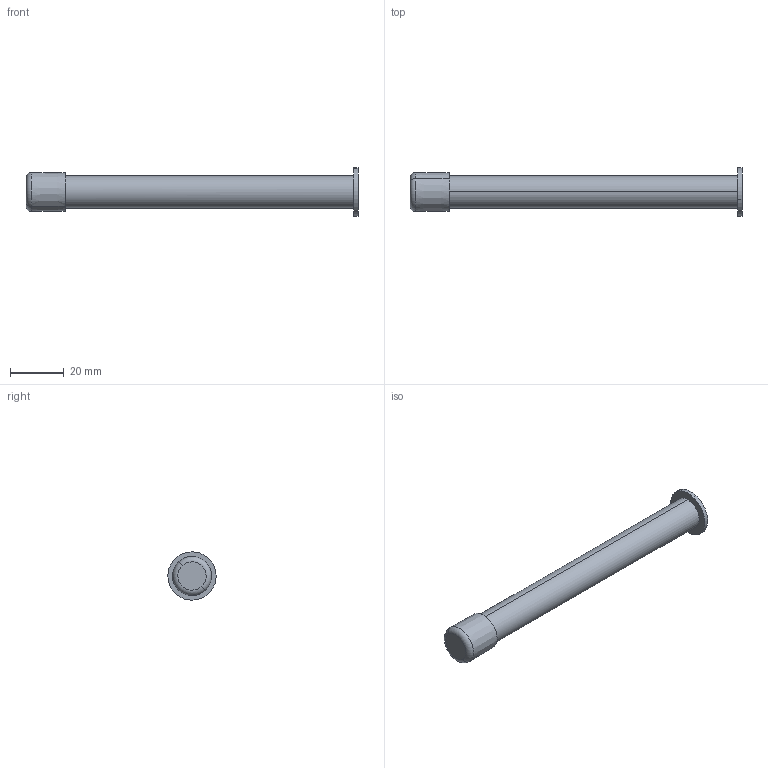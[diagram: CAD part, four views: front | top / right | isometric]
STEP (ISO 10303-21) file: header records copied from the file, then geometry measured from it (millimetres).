
FILE_DESCRIPTION (( 'STEP AP214' ), '1' );
FILE_NAME ('FABER - AF720CC.STEP', '2017-04-05T12:13:07', ( '' ), ( '' ), 'SwSTEP 2.0', 'SolidWorks 2016', '' );
FILE_SCHEMA (( 'AUTOMOTIVE_DESIGN' ));
Length unit declared in the file: millimetre
Products named in the file (4): EMBOUT-CC-D12; AF 720; Rondelle M8; FABER - AF720CC
Assembly tree (3 placements, depth 2):
  FABER - AF720CC
    AF 720
    EMBOUT-CC-D12
    Rondelle M8
Bounding box: 123.8 x 17.98 x 17.98 mm (x, y, z)
Volume: 13788.5 mm3; surface area: 7255.3 mm2
Topology: 3 solids, 3 shells, 31 faces, 65 edges, 40 vertices
Faces by surface type: cylinder 12, plane 7, cone 6, bspline 4, torus 2
Entity records: 4078 total; most frequent: CARTESIAN_POINT 3158, DIRECTION 144, ORIENTED_EDGE 126, EDGE_CURVE 63, AXIS2_PLACEMENT_3D 63, VERTEX_POINT 40, EDGE_LOOP 37, FACE_OUTER_BOUND 31
